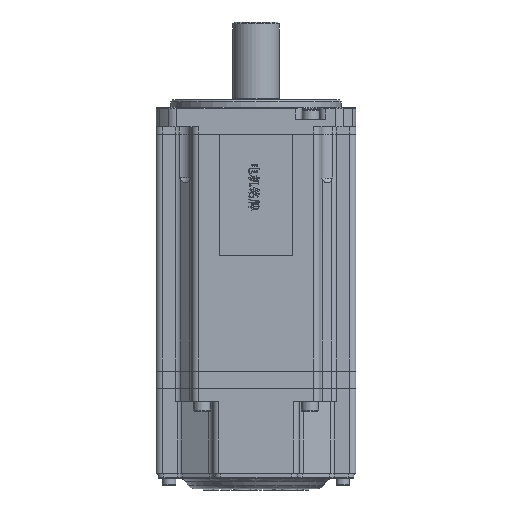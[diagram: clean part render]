
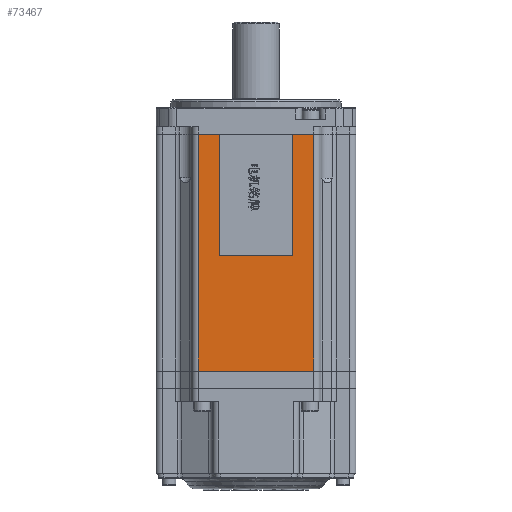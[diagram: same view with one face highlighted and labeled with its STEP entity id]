
A CAD part, front view. The second image highlights one B-rep face of the part: STEP entity #73467.
In plain terms, the highlighted planar face has unit normal (0, -1, 0).
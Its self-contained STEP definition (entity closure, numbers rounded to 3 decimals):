
#434 = DIRECTION ( 'NONE',  ( 0., 0., 1. ) ) ;
#5211 = LINE ( 'NONE', #31118, #85188 ) ;
#5549 = LINE ( 'NONE', #40749, #85566 ) ;
#5652 = VERTEX_POINT ( 'NONE', #80519 ) ;
#5869 = CARTESIAN_POINT ( 'NONE',  ( 15., -41., 47.2 ) ) ;
#6574 = PLANE ( 'NONE',  #34874 ) ;
#6971 = FACE_OUTER_BOUND ( 'NONE', #76133, .T. ) ;
#9281 = LINE ( 'NONE', #12306, #82679 ) ;
#11748 = LINE ( 'NONE', #34276, #51161 ) ;
#12306 = CARTESIAN_POINT ( 'NONE',  ( 23.75, -41., 1000. ) ) ;
#12962 = VERTEX_POINT ( 'NONE', #52259 ) ;
#14672 = LINE ( 'NONE', #75419, #53008 ) ;
#15817 = EDGE_CURVE ( 'NONE', #79893, #23166, #23677, .T. ) ;
#16493 = EDGE_CURVE ( 'NONE', #12962, #87629, #9281, .T. ) ;
#18216 = VECTOR ( 'NONE', #25579, 1000. ) ;
#18219 = DIRECTION ( 'NONE',  ( 1., 0., 0. ) ) ;
#18559 = LINE ( 'NONE', #27370, #83208 ) ;
#23166 = VERTEX_POINT ( 'NONE', #83058 ) ;
#23677 = LINE ( 'NONE', #5869, #18216 ) ;
#25279 = CARTESIAN_POINT ( 'NONE',  ( -23.75, -41., 0. ) ) ;
#25579 = DIRECTION ( 'NONE',  ( 0., 0., 1. ) ) ;
#27290 = DIRECTION ( 'NONE',  ( -1., 0., 0. ) ) ;
#27370 = CARTESIAN_POINT ( 'NONE',  ( -15., -41., 47.2 ) ) ;
#27612 = VERTEX_POINT ( 'NONE', #38227 ) ;
#28542 = ORIENTED_EDGE ( 'NONE', *, *, #16493, .F. ) ;
#31118 = CARTESIAN_POINT ( 'NONE',  ( -198.803, -41., 97.2 ) ) ;
#32268 = EDGE_CURVE ( 'NONE', #51520, #87629, #40664, .T. ) ;
#33792 = DIRECTION ( 'NONE',  ( 0., 0., -1. ) ) ;
#34276 = CARTESIAN_POINT ( 'NONE',  ( -23.75, -41., 1000. ) ) ;
#34387 = DIRECTION ( 'NONE',  ( 0., 0., -1. ) ) ;
#34874 = AXIS2_PLACEMENT_3D ( 'NONE', #76083, #42135, #434 ) ;
#35067 = ORIENTED_EDGE ( 'NONE', *, *, #83439, .T. ) ;
#38227 = CARTESIAN_POINT ( 'NONE',  ( -23.75, -41., 97.2 ) ) ;
#40664 = LINE ( 'NONE', #74212, #51648 ) ;
#40749 = CARTESIAN_POINT ( 'NONE',  ( -198.803, -41., 97.2 ) ) ;
#41321 = ORIENTED_EDGE ( 'NONE', *, *, #44305, .F. ) ;
#42135 = DIRECTION ( 'NONE',  ( 0., 1., 0. ) ) ;
#44305 = EDGE_CURVE ( 'NONE', #79491, #79893, #14672, .T. ) ;
#51161 = VECTOR ( 'NONE', #63052, 1000. ) ;
#51520 = VERTEX_POINT ( 'NONE', #25279 ) ;
#51624 = DIRECTION ( 'NONE',  ( -1., 0., 0. ) ) ;
#51648 = VECTOR ( 'NONE', #18219, 1000. ) ;
#52259 = CARTESIAN_POINT ( 'NONE',  ( 23.75, -41., 97.2 ) ) ;
#53008 = VECTOR ( 'NONE', #88963, 1000. ) ;
#54986 = CARTESIAN_POINT ( 'NONE',  ( 15., -41., 47.2 ) ) ;
#63052 = DIRECTION ( 'NONE',  ( 0., 0., -1. ) ) ;
#63998 = CARTESIAN_POINT ( 'NONE',  ( 23.75, -41., 0. ) ) ;
#64766 = ORIENTED_EDGE ( 'NONE', *, *, #77521, .F. ) ;
#71779 = ORIENTED_EDGE ( 'NONE', *, *, #79257, .T. ) ;
#72464 = CARTESIAN_POINT ( 'NONE',  ( -15., -41., 47.2 ) ) ;
#73467 = ADVANCED_FACE ( 'NONE', ( #6971 ), #6574, .F. ) ;
#74212 = CARTESIAN_POINT ( 'NONE',  ( -23.75, -41., 0. ) ) ;
#75419 = CARTESIAN_POINT ( 'NONE',  ( -15., -41., 47.2 ) ) ;
#76083 = CARTESIAN_POINT ( 'NONE',  ( -23.75, -41., 1000. ) ) ;
#76133 = EDGE_LOOP ( 'NONE', ( #82719, #76510, #41321, #64766, #35067, #71779, #84396, #28542 ) ) ;
#76510 = ORIENTED_EDGE ( 'NONE', *, *, #15817, .F. ) ;
#77521 = EDGE_CURVE ( 'NONE', #5652, #79491, #18559, .T. ) ;
#79257 = EDGE_CURVE ( 'NONE', #27612, #51520, #11748, .T. ) ;
#79491 = VERTEX_POINT ( 'NONE', #72464 ) ;
#79893 = VERTEX_POINT ( 'NONE', #54986 ) ;
#80519 = CARTESIAN_POINT ( 'NONE',  ( -15., -41., 97.2 ) ) ;
#82679 = VECTOR ( 'NONE', #34387, 1000. ) ;
#82719 = ORIENTED_EDGE ( 'NONE', *, *, #88892, .T. ) ;
#83058 = CARTESIAN_POINT ( 'NONE',  ( 15., -41., 97.2 ) ) ;
#83208 = VECTOR ( 'NONE', #33792, 1000. ) ;
#83439 = EDGE_CURVE ( 'NONE', #5652, #27612, #5211, .T. ) ;
#84396 = ORIENTED_EDGE ( 'NONE', *, *, #32268, .T. ) ;
#85188 = VECTOR ( 'NONE', #51624, 1000. ) ;
#85566 = VECTOR ( 'NONE', #27290, 1000. ) ;
#87629 = VERTEX_POINT ( 'NONE', #63998 ) ;
#88892 = EDGE_CURVE ( 'NONE', #12962, #23166, #5549, .T. ) ;
#88963 = DIRECTION ( 'NONE',  ( 1., 0., 0. ) ) ;
